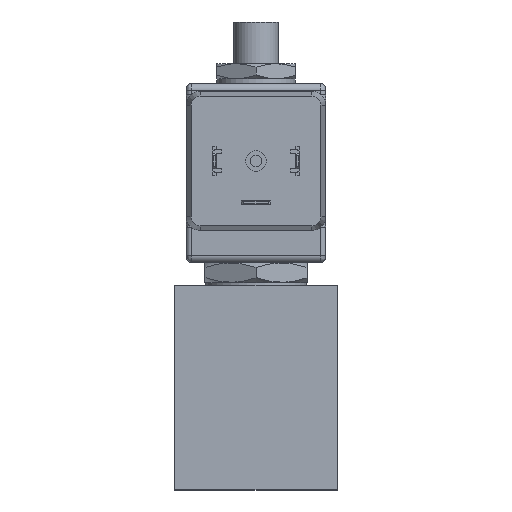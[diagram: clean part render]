
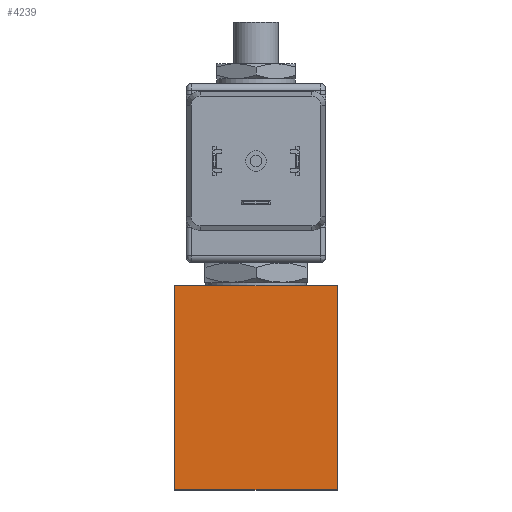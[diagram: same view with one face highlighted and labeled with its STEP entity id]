
A CAD part, left-side view. The second image highlights one B-rep face of the part: STEP entity #4239.
In plain terms, the highlighted planar face has unit normal (-1, 0, 0).
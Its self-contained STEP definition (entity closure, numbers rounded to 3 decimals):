
#161=LINE('',#6136,#579);
#166=LINE('',#6145,#584);
#169=LINE('',#6151,#587);
#172=LINE('',#6156,#590);
#579=VECTOR('',#4914,34.998);
#584=VECTOR('',#4921,43.999);
#587=VECTOR('',#4926,34.998);
#590=VECTOR('',#4931,43.999);
#1001=PLANE('',#4508);
#1245=FACE_OUTER_BOUND('',#1493,.T.);
#1493=EDGE_LOOP('',(#2988,#2989,#2990,#2991));
#1958=VERTEX_POINT('',#6133);
#1959=VERTEX_POINT('',#6135);
#1962=VERTEX_POINT('',#6143);
#1964=VERTEX_POINT('',#6149);
#2360=EDGE_CURVE('',#1958,#1959,#161,.T.);
#2365=EDGE_CURVE('',#1962,#1958,#166,.T.);
#2368=EDGE_CURVE('',#1964,#1962,#169,.T.);
#2371=EDGE_CURVE('',#1959,#1964,#172,.T.);
#2988=ORIENTED_EDGE('',*,*,#2371,.F.);
#2989=ORIENTED_EDGE('',*,*,#2360,.F.);
#2990=ORIENTED_EDGE('',*,*,#2365,.F.);
#2991=ORIENTED_EDGE('',*,*,#2368,.F.);
#4239=ADVANCED_FACE('',(#1245),#1001,.F.);
#4508=AXIS2_PLACEMENT_3D('',#6159,#4935,#4936);
#4914=DIRECTION('',(0.,1.,0.));
#4921=DIRECTION('',(0.,0.,-1.));
#4926=DIRECTION('',(0.,-1.,0.));
#4931=DIRECTION('',(0.,0.,1.));
#4935=DIRECTION('center_axis',(1.,0.,0.));
#4936=DIRECTION('ref_axis',(0.,0.,-1.));
#6133=CARTESIAN_POINT('',(-60.,-17.499,-34.999));
#6135=CARTESIAN_POINT('',(-60.,17.499,-34.999));
#6136=CARTESIAN_POINT('',(-60.,17.499,-34.999));
#6143=CARTESIAN_POINT('',(-60.,-17.499,9.));
#6145=CARTESIAN_POINT('',(-60.,-17.499,-34.999));
#6149=CARTESIAN_POINT('',(-60.,17.499,9.));
#6151=CARTESIAN_POINT('',(-60.,-17.499,9.));
#6156=CARTESIAN_POINT('',(-60.,17.499,9.));
#6159=CARTESIAN_POINT('Origin',(-60.,0.,-13.));
